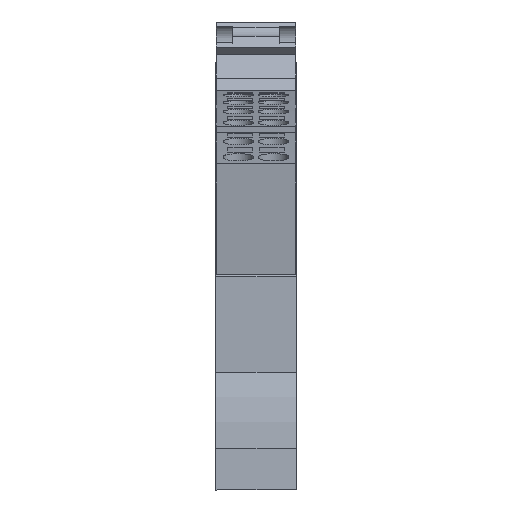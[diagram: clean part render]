
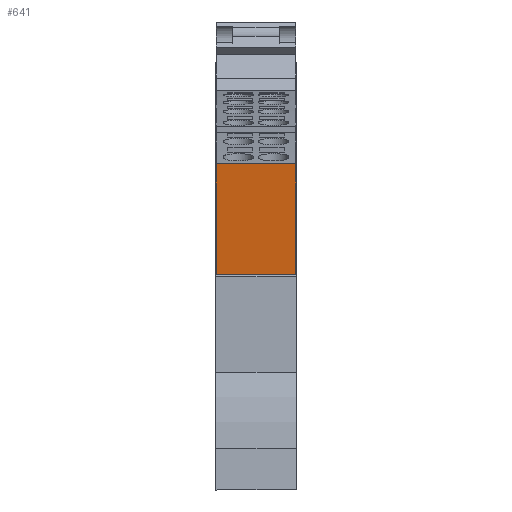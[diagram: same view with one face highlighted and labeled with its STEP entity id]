
A CAD part, front view. The second image highlights one B-rep face of the part: STEP entity #641.
In plain terms, the highlighted planar face has unit normal (0, -0.991, -0.131) as drawn and (-0.991, -0.131, 0) by its records, which use the part's own axes.
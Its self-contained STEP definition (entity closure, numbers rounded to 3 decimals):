
#641 = ADVANCED_FACE( 'NONE', ( #1459 ), #1460, .T. );
#1459 = FACE_OUTER_BOUND( '', #2866, .T. );
#1460 = PLANE( '', #2867 );
#2866 = EDGE_LOOP( '', ( #5254, #5255, #5256, #5257 ) );
#2867 = AXIS2_PLACEMENT_3D( '', #5258, #5259, #5260 );
#5254 = ORIENTED_EDGE( '', *, *, #7988, .T. );
#5255 = ORIENTED_EDGE( '', *, *, #7989, .T. );
#5256 = ORIENTED_EDGE( '', *, *, #7990, .F. );
#5257 = ORIENTED_EDGE( '', *, *, #7991, .T. );
#5258 = CARTESIAN_POINT( '', ( -11.868, 63.119, -35.425 ) );
#5259 = DIRECTION( '', ( -0.991, -0.131, 0. ) );
#5260 = DIRECTION( '', ( -0.131, 0.991, 0. ) );
#7988 = EDGE_CURVE( 'NONE', #9799, #9800, #9801, .T. );
#7989 = EDGE_CURVE( 'NONE', #9800, #9802, #9803, .T. );
#7990 = EDGE_CURVE( 'NONE', #9804, #9802, #9805, .T. );
#7991 = EDGE_CURVE( 'NONE', #9804, #9799, #9806, .T. );
#9799 = VERTEX_POINT( 'NONE', #12914 );
#9800 = VERTEX_POINT( 'NONE', #12915 );
#9801 = LINE( '', #12916, #12917 );
#9802 = VERTEX_POINT( 'NONE', #12918 );
#9803 = LINE( '', #12919, #12920 );
#9804 = VERTEX_POINT( 'NONE', #12921 );
#9805 = LINE( '', #12922, #12923 );
#9806 = LINE( '', #12924, #12925 );
#12914 = CARTESIAN_POINT( '', ( -9.675, 46.459, -47.425 ) );
#12915 = CARTESIAN_POINT( '', ( -9.675, 46.459, -35.425 ) );
#12916 = CARTESIAN_POINT( '', ( -9.675, 46.459, -35.425 ) );
#12917 = VECTOR( '', #15209, 1000. );
#12918 = CARTESIAN_POINT( '', ( -11.868, 63.119, -35.425 ) );
#12919 = CARTESIAN_POINT( '', ( -9.675, 46.459, -35.425 ) );
#12920 = VECTOR( '', #15210, 1000. );
#12921 = CARTESIAN_POINT( '', ( -11.868, 63.119, -47.425 ) );
#12922 = CARTESIAN_POINT( '', ( -11.868, 63.119, -35.425 ) );
#12923 = VECTOR( '', #15211, 1000. );
#12924 = CARTESIAN_POINT( '', ( -11.868, 63.119, -47.425 ) );
#12925 = VECTOR( '', #15212, 1000. );
#15209 = DIRECTION( '', ( 0., 0., 1. ) );
#15210 = DIRECTION( '', ( -0.131, 0.991, 0. ) );
#15211 = DIRECTION( '', ( 0., 0., 1. ) );
#15212 = DIRECTION( '', ( 0.131, -0.991, 0. ) );
